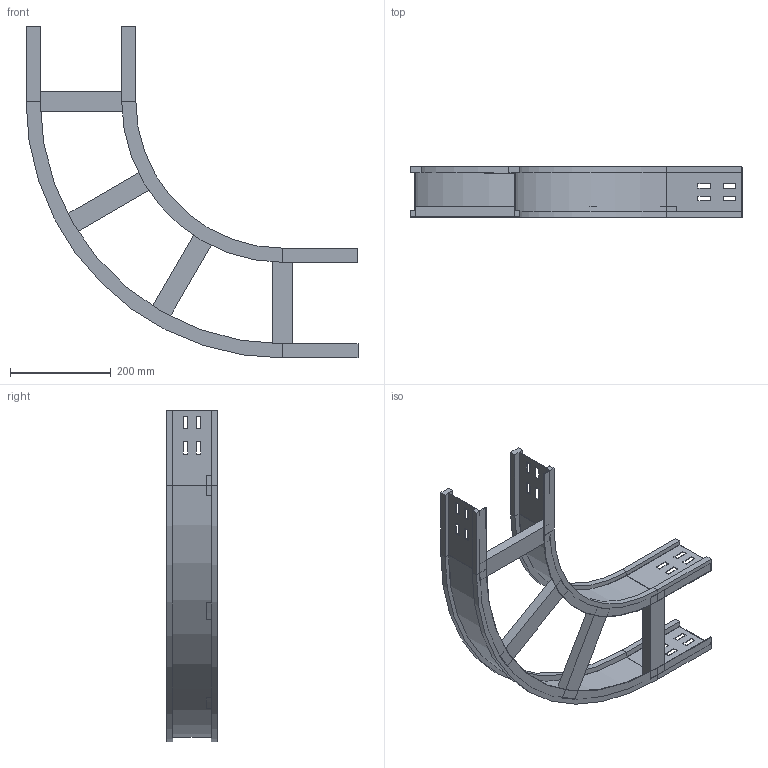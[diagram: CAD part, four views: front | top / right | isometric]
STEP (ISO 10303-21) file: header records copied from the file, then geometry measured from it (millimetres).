
FILE_DESCRIPTION (( 'STEP AP214' ), '1' );
FILE_NAME ('10S3D200.step', '2025-02-21T16:08:49', ( '' ), ( '' ), 'SwSTEP 2.0', 'SolidWorks 2023', '' );
FILE_SCHEMA (( 'AUTOMOTIVE_DESIGN' ));
Length unit declared in the file: millimetre
Products named in the file (4): LONGH.INTERNO 90°_H100_R300; 10S3D200; LONGH.ESTERNO 90°_H100_R300+200; TRAVERSINO_200
Assembly tree (6 placements, depth 2):
  10S3D200
    LONGH.INTERNO 90°_H100_R300
    LONGH.ESTERNO 90°_H100_R300+200
    TRAVERSINO_200  x4
Bounding box: 659 x 100 x 659 mm (x, y, z)
Volume: 1617361.8 mm3; surface area: 649802.2 mm2
Topology: 6 solids, 6 shells, 164 faces, 408 edges, 256 vertices
Faces by surface type: plane 152, cylinder 12
Entity records: 4485 total; most frequent: CARTESIAN_POINT 759, ORIENTED_EDGE 744, DIRECTION 706, EDGE_CURVE 372, LINE 348, VECTOR 348, VERTEX_POINT 232, AXIS2_PLACEMENT_3D 179
